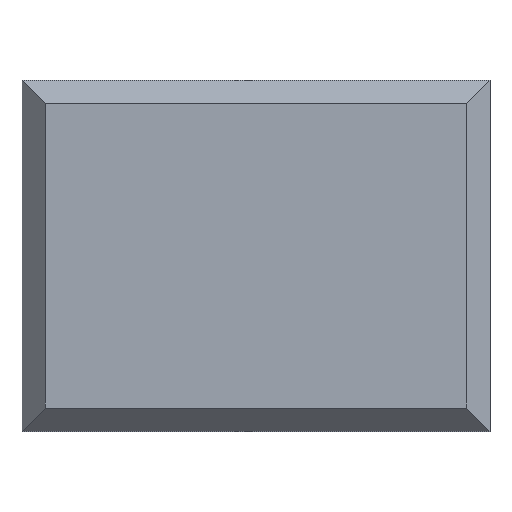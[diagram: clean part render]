
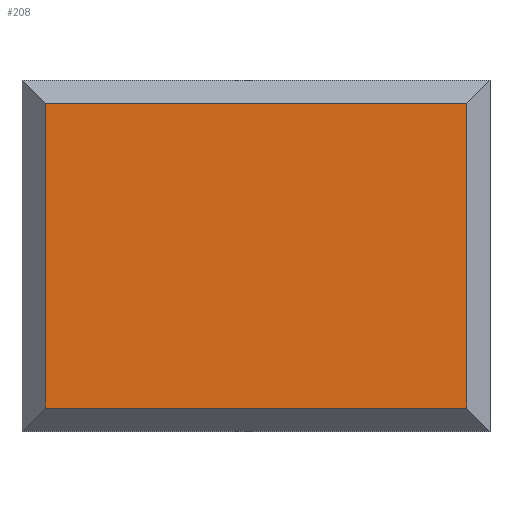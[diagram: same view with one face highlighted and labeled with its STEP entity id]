
A CAD part, top view. The second image highlights one B-rep face of the part: STEP entity #208.
In plain terms, the highlighted planar face has unit normal (0, 0, 1).
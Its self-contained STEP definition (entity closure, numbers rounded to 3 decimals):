
#93 = VERTEX_POINT('',#94);
#94 = CARTESIAN_POINT('',(0.4,0.4,0.));
#102 = VERTEX_POINT('',#103);
#103 = CARTESIAN_POINT('',(0.4,5.6,0.));
#109 = EDGE_CURVE('',#93,#102,#110,.T.);
#110 = LINE('',#111,#112);
#111 = CARTESIAN_POINT('',(0.4,0.,0.));
#112 = VECTOR('',#113,1.);
#113 = DIRECTION('',(-0.,1.,0.));
#191 = VERTEX_POINT('',#192);
#192 = CARTESIAN_POINT('',(7.6,0.4,0.));
#198 = EDGE_CURVE('',#93,#191,#199,.T.);
#199 = LINE('',#200,#201);
#200 = CARTESIAN_POINT('',(0.,0.4,0.));
#201 = VECTOR('',#202,1.);
#202 = DIRECTION('',(1.,0.,-0.));
#208 = ADVANCED_FACE('',(#209),#227,.T.);
#209 = FACE_BOUND('',#210,.T.);
#210 = EDGE_LOOP('',(#211,#212,#213,#221));
#211 = ORIENTED_EDGE('',*,*,#109,.F.);
#212 = ORIENTED_EDGE('',*,*,#198,.T.);
#213 = ORIENTED_EDGE('',*,*,#214,.T.);
#214 = EDGE_CURVE('',#191,#215,#217,.T.);
#215 = VERTEX_POINT('',#216);
#216 = CARTESIAN_POINT('',(7.6,5.6,0.));
#217 = LINE('',#218,#219);
#218 = CARTESIAN_POINT('',(7.6,0.,0.));
#219 = VECTOR('',#220,1.);
#220 = DIRECTION('',(-0.,1.,0.));
#221 = ORIENTED_EDGE('',*,*,#222,.F.);
#222 = EDGE_CURVE('',#102,#215,#223,.T.);
#223 = LINE('',#224,#225);
#224 = CARTESIAN_POINT('',(0.,5.6,0.));
#225 = VECTOR('',#226,1.);
#226 = DIRECTION('',(1.,0.,-0.));
#227 = PLANE('',#228);
#228 = AXIS2_PLACEMENT_3D('',#229,#230,#231);
#229 = CARTESIAN_POINT('',(0.,0.,0.));
#230 = DIRECTION('',(0.,0.,1.));
#231 = DIRECTION('',(1.,0.,-0.));
